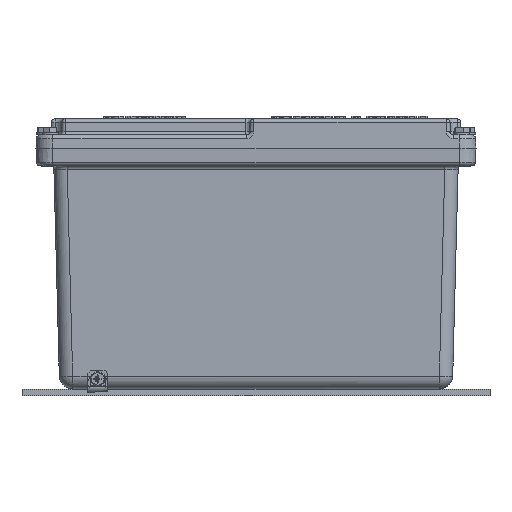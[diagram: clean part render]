
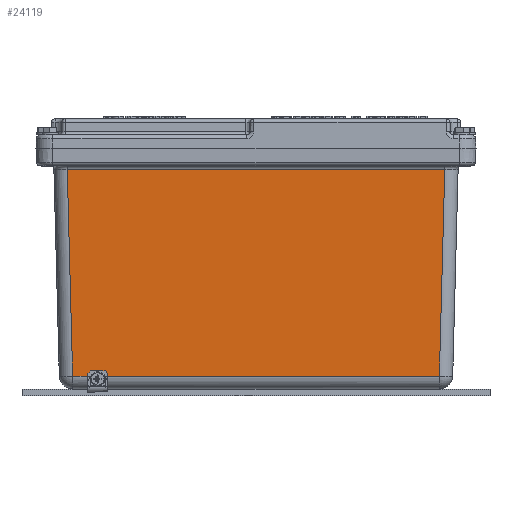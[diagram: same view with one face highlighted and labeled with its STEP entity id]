
A CAD part, front view. The second image highlights one B-rep face of the part: STEP entity #24119.
In plain terms, the highlighted planar face has unit normal (0, -1, -0.026).
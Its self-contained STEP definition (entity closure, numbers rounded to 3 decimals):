
#240=CARTESIAN_POINT('',(-115.881,-322.068,-169.258));
#241=VERTEX_POINT('',#240);
#242=CARTESIAN_POINT('',(-118.34,-322.068,-169.258));
#243=DIRECTION('',(0.0,1.,0.026));
#244=DIRECTION('',(1.0,0.0,0.0));
#245=AXIS2_PLACEMENT_3D('',#242,#243,#244);
#246=CIRCLE('',#245,2.459);
#247=EDGE_CURVE('',#241,#241,#246,.T.);
#3202=CARTESIAN_POINT('',(-112.84,-321.937,-174.256));
#3203=VERTEX_POINT('',#3202);
#3310=CARTESIAN_POINT('',(-123.84,-321.937,-174.256));
#3311=VERTEX_POINT('',#3310);
#3312=CARTESIAN_POINT('',(-112.84,-321.937,-174.256));
#3313=DIRECTION('',(-1.0,0.0,0.0));
#3314=VECTOR('',#3313,11.);
#3315=LINE('',#3312,#3314);
#3316=EDGE_CURVE('',#3203,#3311,#3315,.T.);
#3475=CARTESIAN_POINT('',(-123.84,-322.12,-167.262));
#3476=VERTEX_POINT('',#3475);
#3477=CARTESIAN_POINT('',(-123.84,-321.937,-174.256));
#3478=DIRECTION('',(0.0,-0.026,1.));
#3479=VECTOR('',#3478,6.997);
#3480=LINE('',#3477,#3479);
#3481=EDGE_CURVE('',#3311,#3476,#3480,.T.);
#9130=CARTESIAN_POINT('',(-112.84,-322.12,-167.262));
#9131=VERTEX_POINT('',#9130);
#9141=CARTESIAN_POINT('',(-112.84,-322.12,-167.262));
#9142=DIRECTION('',(0.0,0.026,-1.));
#9143=VECTOR('',#9142,6.997);
#9144=LINE('',#9141,#9143);
#9145=EDGE_CURVE('',#9131,#3203,#9144,.T.);
#9178=CARTESIAN_POINT('',(-137.124,-322.12,-167.262));
#9179=VERTEX_POINT('',#9178);
#9180=CARTESIAN_POINT('',(-123.84,-322.12,-167.262));
#9181=DIRECTION('',(-1.0,0.0,0.0));
#9182=VECTOR('',#9181,13.284);
#9183=LINE('',#9180,#9182);
#9184=EDGE_CURVE('',#3476,#9179,#9183,.T.);
#9203=CARTESIAN_POINT('',(137.124,-322.12,-167.262));
#9204=VERTEX_POINT('',#9203);
#9212=CARTESIAN_POINT('',(137.124,-322.12,-167.262));
#9213=DIRECTION('',(-1.0,0.0,0.0));
#9214=VECTOR('',#9213,249.963);
#9215=LINE('',#9212,#9214);
#9216=EDGE_CURVE('',#9204,#9131,#9215,.T.);
#19794=CARTESIAN_POINT('',(141.165,-326.162,-12.921));
#19795=VERTEX_POINT('',#19794);
#19828=CARTESIAN_POINT('',(-141.165,-326.162,-12.921));
#19829=VERTEX_POINT('',#19828);
#19837=CARTESIAN_POINT('',(-141.165,-326.162,-12.921));
#19838=DIRECTION('',(1.0,0.0,0.0));
#19839=VECTOR('',#19838,282.33);
#19840=LINE('',#19837,#19839);
#19841=EDGE_CURVE('',#19829,#19795,#19840,.T.);
#20163=CARTESIAN_POINT('',(141.165,-326.162,-12.921));
#20164=DIRECTION('',(-0.026,0.026,-0.999));
#20165=VECTOR('',#20164,154.446);
#20166=LINE('',#20163,#20165);
#20167=EDGE_CURVE('',#19795,#9204,#20166,.T.);
#24076=CARTESIAN_POINT('',(-137.124,-322.12,-167.262));
#24077=DIRECTION('',(-0.026,-0.026,0.999));
#24078=VECTOR('',#24077,154.446);
#24079=LINE('',#24076,#24078);
#24080=EDGE_CURVE('',#9179,#19829,#24079,.T.);
#24101=CARTESIAN_POINT('',(148.432,-326.238,-10.0));
#24102=DIRECTION('',(0.0,-1.,-0.026));
#24103=DIRECTION('',(0.0,0.026,-1.));
#24104=AXIS2_PLACEMENT_3D('',#24101,#24102,#24103);
#24105=PLANE('',#24104);
#24106=ORIENTED_EDGE('',*,*,#9216,.F.);
#24107=ORIENTED_EDGE('',*,*,#20167,.F.);
#24108=ORIENTED_EDGE('',*,*,#19841,.F.);
#24109=ORIENTED_EDGE('',*,*,#24080,.F.);
#24110=ORIENTED_EDGE('',*,*,#9184,.F.);
#24111=ORIENTED_EDGE('',*,*,#3481,.F.);
#24112=ORIENTED_EDGE('',*,*,#3316,.F.);
#24113=ORIENTED_EDGE('',*,*,#9145,.F.);
#24114=EDGE_LOOP('',(#24106,#24107,#24108,#24109,#24110,#24111,#24112,#24113));
#24115=FACE_OUTER_BOUND('',#24114,.T.);
#24116=ORIENTED_EDGE('',*,*,#247,.T.);
#24117=EDGE_LOOP('',(#24116));
#24118=FACE_BOUND('',#24117,.T.);
#24119=ADVANCED_FACE('',(#24115,#24118),#24105,.T.);
